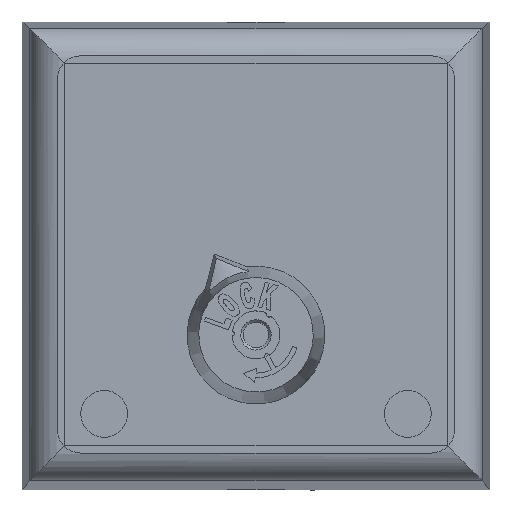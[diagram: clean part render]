
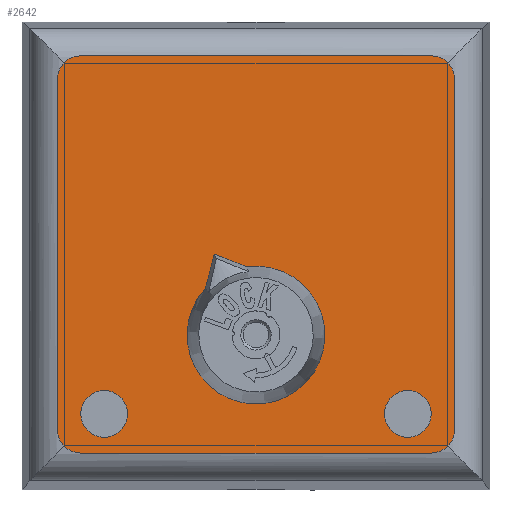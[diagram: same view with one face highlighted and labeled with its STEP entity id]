
A CAD part, top view. The second image highlights one B-rep face of the part: STEP entity #2642.
In plain terms, the highlighted planar face has unit normal (0, 0, 1).
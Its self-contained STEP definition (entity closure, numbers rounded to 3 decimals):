
#2425=CARTESIAN_POINT('',(-4.325,-2.887,68.24));
#2426=VERTEX_POINT('',#2425);
#2454=CARTESIAN_POINT('',(-3.585,0.029,68.24));
#2455=VERTEX_POINT('',#2454);
#2462=CARTESIAN_POINT('',(-4.325,-2.887,68.24));
#2463=DIRECTION('',(0.246,0.969,0.));
#2464=VECTOR('',#2463,3.009);
#2465=LINE('',#2462,#2464);
#2466=EDGE_CURVE('',#2426,#2455,#2465,.T.);
#2476=CARTESIAN_POINT('',(-0.777,-1.051,68.24));
#2477=VERTEX_POINT('',#2476);
#2493=CARTESIAN_POINT('',(-3.585,0.029,68.24));
#2494=DIRECTION('',(0.933,-0.359,0.));
#2495=VECTOR('',#2494,3.009);
#2496=LINE('',#2493,#2495);
#2497=EDGE_CURVE('',#2455,#2477,#2496,.T.);
#2524=CARTESIAN_POINT('',(0.,-6.9,68.24));
#2525=DIRECTION('',(0.,0.,-1.));
#2526=DIRECTION('',(-0.46,0.888,0.));
#2527=AXIS2_PLACEMENT_3D('',#2524,#2525,#2526);
#2528=CIRCLE('',#2527,5.9);
#2529=EDGE_CURVE('',#2477,#2426,#2528,.T.);
#2540=CARTESIAN_POINT('',(0.,0.,68.24));
#2541=DIRECTION('',(0.,0.,1.0));
#2542=DIRECTION('',(1.0,0.0,0.0));
#2543=AXIS2_PLACEMENT_3D('',#2540,#2541,#2542);
#2544=PLANE('',#2543);
#2545=CARTESIAN_POINT('',(-17.0,15.0,68.24));
#2546=VERTEX_POINT('',#2545);
#2547=CARTESIAN_POINT('',(-15.,17.0,68.24));
#2548=VERTEX_POINT('',#2547);
#2549=CARTESIAN_POINT('',(-15.,15.0,68.24));
#2550=DIRECTION('',(0.,0.,-1.0));
#2551=DIRECTION('',(-0.707,0.707,0.));
#2552=AXIS2_PLACEMENT_3D('',#2549,#2550,#2551);
#2553=CIRCLE('',#2552,2.0);
#2554=EDGE_CURVE('',#2546,#2548,#2553,.T.);
#2555=ORIENTED_EDGE('',*,*,#2554,.F.);
#2556=CARTESIAN_POINT('',(-17.0,-15.,68.24));
#2557=VERTEX_POINT('',#2556);
#2558=CARTESIAN_POINT('',(-17.0,-15.0,68.24));
#2559=DIRECTION('',(0.0,1.0,0.));
#2560=VECTOR('',#2559,30.0);
#2561=LINE('',#2558,#2560);
#2562=EDGE_CURVE('',#2557,#2546,#2561,.T.);
#2563=ORIENTED_EDGE('',*,*,#2562,.F.);
#2564=CARTESIAN_POINT('',(-15.0,-17.0,68.24));
#2565=VERTEX_POINT('',#2564);
#2566=CARTESIAN_POINT('',(-15.0,-15.,68.24));
#2567=DIRECTION('',(0.,0.,-1.0));
#2568=DIRECTION('',(-0.707,-0.707,0.));
#2569=AXIS2_PLACEMENT_3D('',#2566,#2567,#2568);
#2570=CIRCLE('',#2569,2.0);
#2571=EDGE_CURVE('',#2565,#2557,#2570,.T.);
#2572=ORIENTED_EDGE('',*,*,#2571,.F.);
#2573=CARTESIAN_POINT('',(15.,-17.0,68.24));
#2574=VERTEX_POINT('',#2573);
#2575=CARTESIAN_POINT('',(15.0,-17.0,68.24));
#2576=DIRECTION('',(-1.0,0.0,0.0));
#2577=VECTOR('',#2576,30.0);
#2578=LINE('',#2575,#2577);
#2579=EDGE_CURVE('',#2574,#2565,#2578,.T.);
#2580=ORIENTED_EDGE('',*,*,#2579,.F.);
#2581=CARTESIAN_POINT('',(17.0,-15.0,68.24));
#2582=VERTEX_POINT('',#2581);
#2583=CARTESIAN_POINT('',(15.,-15.0,68.24));
#2584=DIRECTION('',(0.,0.,-1.0));
#2585=DIRECTION('',(0.707,-0.707,0.));
#2586=AXIS2_PLACEMENT_3D('',#2583,#2584,#2585);
#2587=CIRCLE('',#2586,2.0);
#2588=EDGE_CURVE('',#2582,#2574,#2587,.T.);
#2589=ORIENTED_EDGE('',*,*,#2588,.F.);
#2590=CARTESIAN_POINT('',(17.0,15.,68.24));
#2591=VERTEX_POINT('',#2590);
#2592=CARTESIAN_POINT('',(17.0,15.0,68.24));
#2593=DIRECTION('',(0.0,-1.0,0.));
#2594=VECTOR('',#2593,30.0);
#2595=LINE('',#2592,#2594);
#2596=EDGE_CURVE('',#2591,#2582,#2595,.T.);
#2597=ORIENTED_EDGE('',*,*,#2596,.F.);
#2598=CARTESIAN_POINT('',(15.0,17.0,68.24));
#2599=VERTEX_POINT('',#2598);
#2600=CARTESIAN_POINT('',(15.0,15.,68.24));
#2601=DIRECTION('',(0.,0.,-1.0));
#2602=DIRECTION('',(0.707,0.707,0.));
#2603=AXIS2_PLACEMENT_3D('',#2600,#2601,#2602);
#2604=CIRCLE('',#2603,2.0);
#2605=EDGE_CURVE('',#2599,#2591,#2604,.T.);
#2606=ORIENTED_EDGE('',*,*,#2605,.F.);
#2607=CARTESIAN_POINT('',(-15.0,17.0,68.24));
#2608=DIRECTION('',(1.0,0.0,0.0));
#2609=VECTOR('',#2608,30.0);
#2610=LINE('',#2607,#2609);
#2611=EDGE_CURVE('',#2548,#2599,#2610,.T.);
#2612=ORIENTED_EDGE('',*,*,#2611,.F.);
#2613=EDGE_LOOP('',(#2555,#2563,#2572,#2580,#2589,#2597,#2606,#2612));
#2614=FACE_OUTER_BOUND('',#2613,.T.);
#2615=CARTESIAN_POINT('',(-11.0,-13.65,68.24));
#2616=VERTEX_POINT('',#2615);
#2617=CARTESIAN_POINT('',(-13.0,-13.65,68.24));
#2618=DIRECTION('',(0.0,0.,-1.0));
#2619=DIRECTION('',(1.0,0.0,0.0));
#2620=AXIS2_PLACEMENT_3D('',#2617,#2618,#2619);
#2621=CIRCLE('',#2620,2.0);
#2622=EDGE_CURVE('',#2616,#2616,#2621,.T.);
#2623=ORIENTED_EDGE('',*,*,#2622,.T.);
#2624=EDGE_LOOP('',(#2623));
#2625=FACE_BOUND('',#2624,.T.);
#2626=CARTESIAN_POINT('',(15.0,-13.65,68.24));
#2627=VERTEX_POINT('',#2626);
#2628=CARTESIAN_POINT('',(13.0,-13.65,68.24));
#2629=DIRECTION('',(0.0,0.,-1.0));
#2630=DIRECTION('',(1.0,0.0,0.0));
#2631=AXIS2_PLACEMENT_3D('',#2628,#2629,#2630);
#2632=CIRCLE('',#2631,2.0);
#2633=EDGE_CURVE('',#2627,#2627,#2632,.T.);
#2634=ORIENTED_EDGE('',*,*,#2633,.T.);
#2635=EDGE_LOOP('',(#2634));
#2636=FACE_BOUND('',#2635,.T.);
#2637=ORIENTED_EDGE('',*,*,#2466,.T.);
#2638=ORIENTED_EDGE('',*,*,#2497,.T.);
#2639=ORIENTED_EDGE('',*,*,#2529,.T.);
#2640=EDGE_LOOP('',(#2637,#2638,#2639));
#2641=FACE_BOUND('',#2640,.T.);
#2642=ADVANCED_FACE('',(#2614,#2625,#2636,#2641),#2544,.T.);
